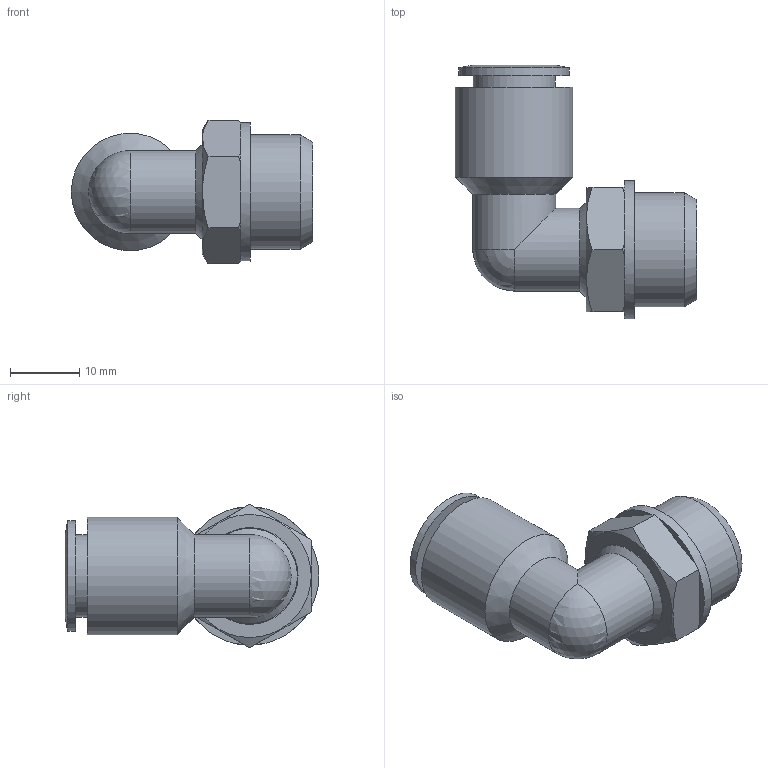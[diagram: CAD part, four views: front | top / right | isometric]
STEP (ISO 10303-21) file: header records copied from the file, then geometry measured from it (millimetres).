
FILE_DESCRIPTION((''),'2;1');
FILE_NAME('C:\Documents and Settings\rivolro1\Documenti\copia di Raccordi\PLASTICA\T22XXXX\T221038.stp','2007-11-02T14:27:40',('Rivolro1'),(''),'Autodesk Inventor 2008','Autodesk Inventor 2008','');
FILE_SCHEMA(('AUTOMOTIVE_DESIGN { 1 0 10303 214 1 1 1 1 }'));
Length unit declared in the file: millimetre
Products named in the file (1): T221038
Bounding box: 34.9 x 36.7 x 20.78 mm (x, y, z)
Volume: 6195.8 mm3; surface area: 4980.8 mm2
Topology: 1 solids, 1 shells, 47 faces, 101 edges, 58 vertices
Faces by surface type: plane 21, cone 11, cylinder 10, bspline 4, sphere 1
Full cylindrical faces by diameter (mm): 8.8 x1, 11.9 x1, 12 x2, 13.8 x1, 14 x1, 16 x1, 16.5 x1, 17 x1, 20 x1
Entity records: 1233 total; most frequent: CARTESIAN_POINT 291, DIRECTION 186, ORIENTED_EDGE 148, AXIS2_PLACEMENT_3D 86, EDGE_CURVE 74, EDGE_LOOP 72, VERTEX_POINT 52, FACE_OUTER_BOUND 47
